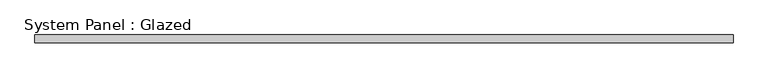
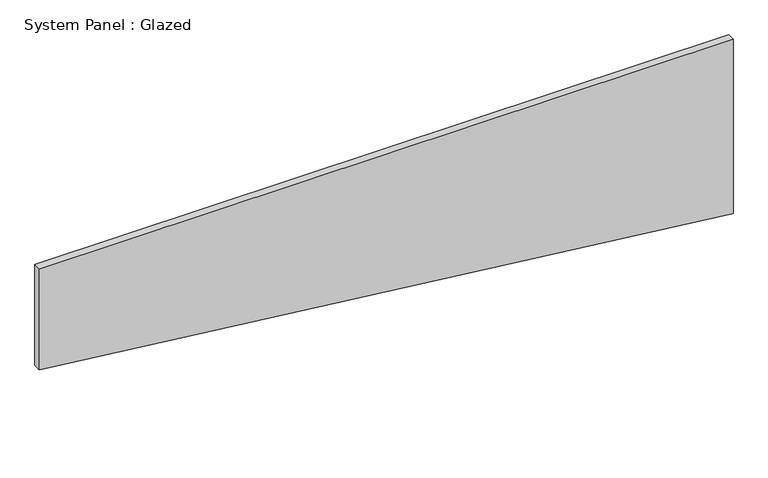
"""IFC4 building model written with IfcOpenShell, lengths in millimetres: plate geometry, System Panel : Glazed."""

from ifc_helpers import new_model, si_unit, frame, origin, place, context, project, spatial, polyline, outline, extrude, source, transform, mapped, element, save


def system_panel_glazed_467c971b(model_context):
    return source(origin(), model_context, "Body", "SweptSolid", [
        extrude(outline(polyline([(256.7163202, -1150.955364), (0.0, 1150.955364), (611.568685, 1150.955364), (611.568685, -1150.955364), (256.7163202, -1150.955364)])), frame((0.0, 19.05, 0.0), z_axis=(0.0, 1.0, 0.0), x_axis=(0.0, 0.0, 1.0)), (0.0, 0.0, 1.0), 25.4),
    ])


if __name__ == "__main__":
    model = new_model("IFC4")
    model_context = context("Model", 3, world=origin())
    ifc_project = project(units=[si_unit("LENGTHUNIT", "METRE", prefix="MILLI")], contexts=[model_context])
    site = spatial("IfcSite", under=ifc_project)
    building = spatial("IfcBuilding", under=site)
    placement = place(None, origin())
    system_panel_glazed_shape = system_panel_glazed_467c971b(model_context)
    element("IfcPlate", 1, ObjectType="System Panel : Glazed", at=placement, inside=building, context=model_context, shape_type="MappedRepresentation", body=[
        mapped(system_panel_glazed_shape, transform((0.0, 0.0, 0.0), x_axis=(1.0, 0.0, 0.0), y_axis=(0.0, 1.0, 0.0), z_axis=(0.0, 0.0, 1.0))),
    ])
    save(model, "model.ifc")
